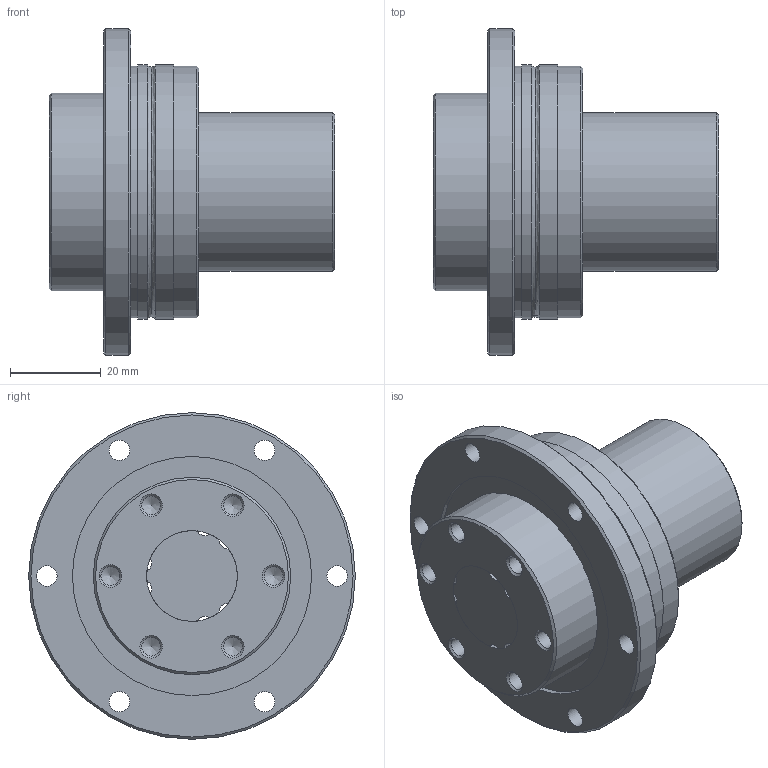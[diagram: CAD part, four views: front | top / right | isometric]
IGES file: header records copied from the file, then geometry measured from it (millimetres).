
Start section: Data from Parasolid IGES Translator 26.0.171, Copyright(c) 2006 Siemens PLM Software. All Rights Reserved.
Global section: file name: LTR20A+63L(0_0).igs; native system: By Siemens PLM Incorporated; preprocessor: XPlus GENERIC/IGES 26.0.171; author: Noname; organization: Noname; date: 20240528.075208; units: millimetre
Bounding box: 63 x 72 x 72 mm (x, y, z)
Surface area: 49503.3 mm2 (no closed solid volume)
Topology: 0 solids, 0 shells, 125 faces, 650 edges, 582 vertices
Faces by surface type: revolution 101, extrusion 24
